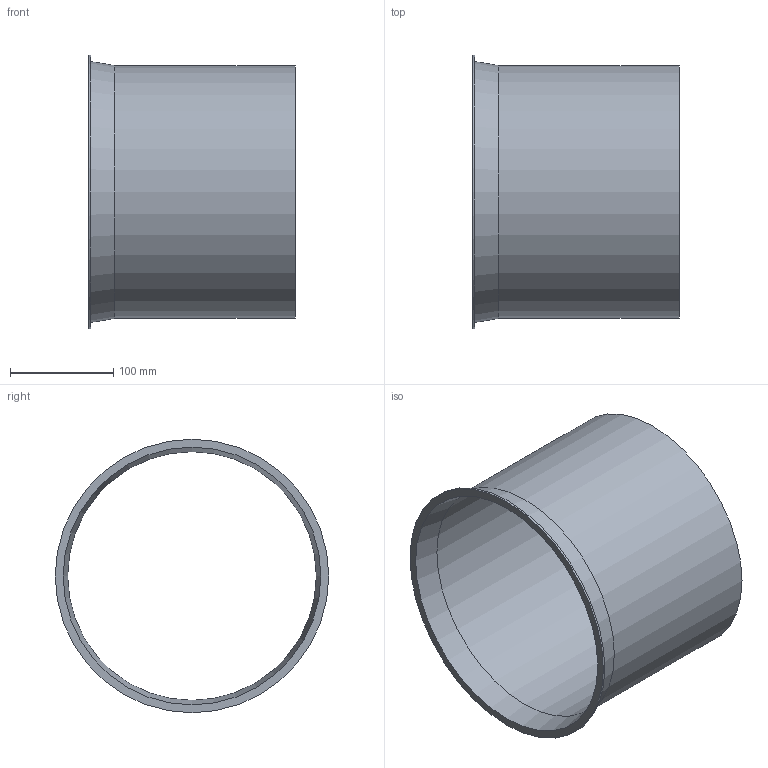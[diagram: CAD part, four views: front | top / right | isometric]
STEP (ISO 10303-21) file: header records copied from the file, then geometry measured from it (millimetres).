
FILE_DESCRIPTION((''),'2;1');
FILE_NAME('U:\Wolfgang\Marcel-3D\fertig\Kapitel 1\2511008.stp','2010-05-31T11:34:53',('TK2'),(''),'Autodesk Inventor 2010','Autodesk Inventor 2010','');
FILE_SCHEMA(('AUTOMOTIVE_DESIGN { 1 0 10303 214 1 1 1 1 }'));
Length unit declared in the file: millimetre
Products named in the file (1): 2511008
Bounding box: 200 x 265 x 265 mm (x, y, z)
Volume: 316109.6 mm3; surface area: 319290.6 mm2
Topology: 1 solids, 1 shells, 8 faces, 14 edges, 9 vertices
Faces by surface type: cylinder 3, plane 3, cone 2
Full cylindrical faces by diameter (mm): 241 x1, 245 x1, 265 x1
Entity records: 194 total; most frequent: DIRECTION 34, CARTESIAN_POINT 25, AXIS2_PLACEMENT_3D 17, ORIENTED_EDGE 16, EDGE_LOOP 16, VERTEX_POINT 8, CIRCLE 8, EDGE_CURVE 8
